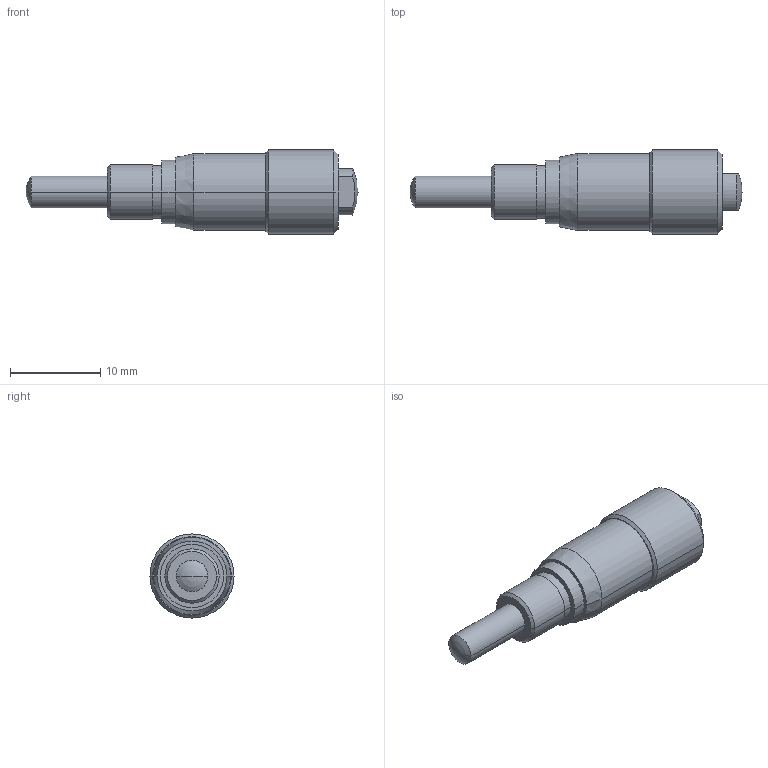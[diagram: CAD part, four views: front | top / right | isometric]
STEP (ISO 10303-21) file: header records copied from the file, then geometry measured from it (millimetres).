
FILE_DESCRIPTION(('Creo Elements/Direct Modeling STEP Export'),'2;1');
FILE_NAME('148-205-10_MHT3-6.5A.stp','2022-09-22T15:27:45',(''),(''),'Creo Elements/Direct Modeling STEP processor for AP214 (Solid Model)','Creo Elements/Direct Modeling 18.1H 24-Oct-2015 (C) Parametric Technology GmbH','');
FILE_SCHEMA(('AUTOMOTIVE_DESIGN { 1 0 10303 214 1 1 1 1 }'));
Length unit declared in the file: millimetre
Products named in the file (1): 148-205-10_MHT3-6_5A_PRT.PRT
Bounding box: 36.7 x 9.3 x 9.3 mm (x, y, z)
Volume: 1440 mm3; surface area: 877.5 mm2
Topology: 1 solids, 1 shells, 34 faces, 74 edges, 44 vertices
Faces by surface type: cylinder 14, plane 8, cone 8, sphere 4
Entity records: 836 total; most frequent: DIRECTION 144, ORIENTED_EDGE 140, CARTESIAN_POINT 129, EDGE_CURVE 70, AXIS2_PLACEMENT_3D 59, VERTEX_POINT 44, EDGE_LOOP 40, FACE_OUTER_BOUND 34
